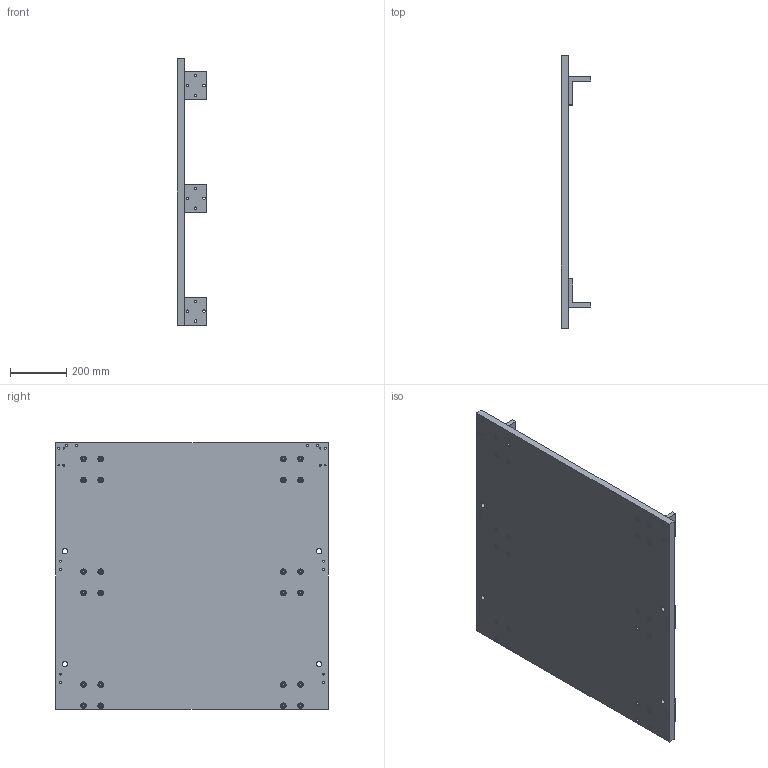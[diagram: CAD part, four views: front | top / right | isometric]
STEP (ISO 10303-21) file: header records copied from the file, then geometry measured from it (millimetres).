
FILE_DESCRIPTION(/* description */ (''),/* implementation_level */ '2;1');
FILE_NAME(/* name */ '191220_aass_trolley.stp',/* time_stamp */ '2019-12-20T15:12:18+01:00',/* author */ (''),/* organization */ (''),/* preprocessor_version */ 'ST-DEVELOPER v16.7',/* originating_system */ 'SIEMENS PLM Software NX 12.0',/* authorisation */ '');
FILE_SCHEMA (('AUTOMOTIVE_DESIGN { 1 0 10303 214 3 1 1 1 }'));
Length unit declared in the file: millimetre
Products named in the file (1): bmas05B4E011lom5
Bounding box: 106 x 967 x 945 mm (x, y, z)
Volume: 24112843.3 mm3; surface area: 2269761.2 mm2
Topology: 55 solids, 55 shells, 778 faces, 1741 edges, 1157 vertices
Faces by surface type: plane 420, cylinder 264, cone 70, torus 24
Full cylindrical faces by diameter (mm): 5 x4, 6.8 x40, 7.76 x24, 8.4 x24, 9 x48, 13 x24, 17 x24, 19 x22, 20 x24
Entity records: 20120 total; most frequent: DIRECTION 3502, CARTESIAN_POINT 3179, ORIENTED_EDGE 2652, EDGE_LOOP 1434, AXIS2_PLACEMENT_3D 1397, EDGE_CURVE 1326, FACE_BOUND 1158, VERTEX_POINT 1074
